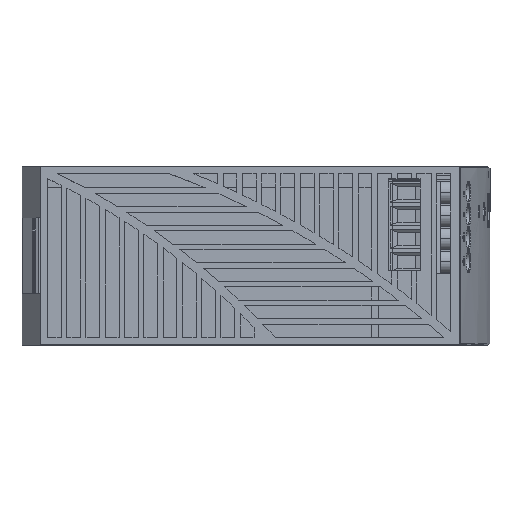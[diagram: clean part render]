
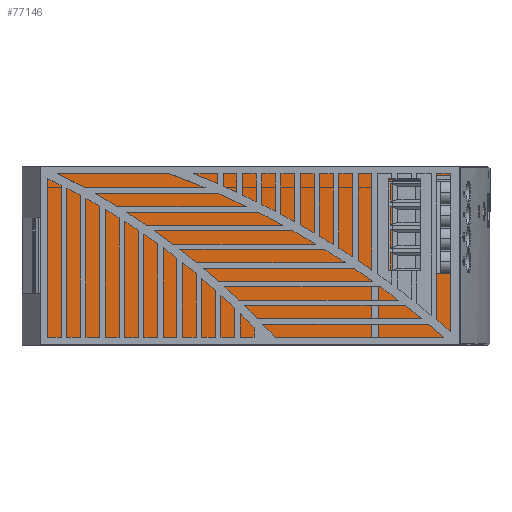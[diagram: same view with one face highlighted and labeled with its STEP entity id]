
A CAD part, top view. The second image highlights one B-rep face of the part: STEP entity #77146.
In plain terms, the highlighted planar face has unit normal (0, 0, 1) as drawn and (0, 1, 0) by its records, which use the part's own axes.
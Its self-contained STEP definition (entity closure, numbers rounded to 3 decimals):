
#779 = VECTOR ( 'NONE', #61953, 1000. ) ;
#1167 = VERTEX_POINT ( 'NONE', #58205 ) ;
#2375 = CARTESIAN_POINT ( 'NONE',  ( 23., 60., 112.379 ) ) ;
#3118 = ORIENTED_EDGE ( 'NONE', *, *, #10994, .F. ) ;
#5104 = DIRECTION ( 'NONE',  ( 0., 0., 1. ) ) ;
#5617 = AXIS2_PLACEMENT_3D ( 'NONE', #7026, #62240, #8580 ) ;
#5988 = VECTOR ( 'NONE', #5104, 1000. ) ;
#7026 = CARTESIAN_POINT ( 'NONE',  ( 23., 60., 0. ) ) ;
#7411 = CARTESIAN_POINT ( 'NONE',  ( -23., 60., 0. ) ) ;
#8580 = DIRECTION ( 'NONE',  ( 0., 0., -1. ) ) ;
#9109 = VERTEX_POINT ( 'NONE', #45475 ) ;
#10994 = EDGE_CURVE ( 'NONE', #19531, #25296, #26738, .T. ) ;
#11001 = CARTESIAN_POINT ( 'NONE',  ( 23., 60., 0. ) ) ;
#11419 = CARTESIAN_POINT ( 'NONE',  ( 22., 60., 95. ) ) ;
#11776 = VECTOR ( 'NONE', #38357, 1000. ) ;
#13565 = EDGE_CURVE ( 'NONE', #31120, #63961, #42698, .T. ) ;
#13671 = CARTESIAN_POINT ( 'NONE',  ( -23., 60., 0. ) ) ;
#14469 = FACE_OUTER_BOUND ( 'NONE', #43638, .T. ) ;
#17281 = LINE ( 'NONE', #11001, #64705 ) ;
#17891 = CARTESIAN_POINT ( 'NONE',  ( -5., 60., 112.379 ) ) ;
#19180 = ORIENTED_EDGE ( 'NONE', *, *, #13565, .T. ) ;
#19316 = CARTESIAN_POINT ( 'NONE',  ( 23., 60., 0. ) ) ;
#19531 = VERTEX_POINT ( 'NONE', #69996 ) ;
#19731 = CARTESIAN_POINT ( 'NONE',  ( -5., 60., 95. ) ) ;
#21119 = EDGE_CURVE ( 'NONE', #49950, #31120, #36963, .T. ) ;
#22621 = EDGE_CURVE ( 'NONE', #1167, #9109, #37307, .T. ) ;
#22989 = EDGE_CURVE ( 'NONE', #49950, #1167, #17281, .T. ) ;
#24251 = EDGE_CURVE ( 'NONE', #61717, #9109, #40419, .T. ) ;
#24510 = CARTESIAN_POINT ( 'NONE',  ( -23., 60., 112.379 ) ) ;
#25045 = VECTOR ( 'NONE', #47526, 1000. ) ;
#25080 = ORIENTED_EDGE ( 'NONE', *, *, #21119, .T. ) ;
#25296 = VERTEX_POINT ( 'NONE', #17891 ) ;
#25834 = DIRECTION ( 'NONE',  ( -1., 0., 0. ) ) ;
#26738 = LINE ( 'NONE', #19731, #66924 ) ;
#27395 = LINE ( 'NONE', #32118, #68926 ) ;
#31120 = VERTEX_POINT ( 'NONE', #13671 ) ;
#31890 = CARTESIAN_POINT ( 'NONE',  ( 23., 60., 0. ) ) ;
#31962 = EDGE_CURVE ( 'NONE', #61717, #19531, #76049, .T. ) ;
#32118 = CARTESIAN_POINT ( 'NONE',  ( 23., 60., 112.379 ) ) ;
#32279 = ORIENTED_EDGE ( 'NONE', *, *, #31962, .F. ) ;
#36745 = EDGE_CURVE ( 'NONE', #25296, #63961, #27395, .T. ) ;
#36963 = LINE ( 'NONE', #19316, #25045 ) ;
#37307 = LINE ( 'NONE', #2375, #779 ) ;
#37586 = PLANE ( 'NONE',  #5617 ) ;
#38357 = DIRECTION ( 'NONE',  ( 0., 0., 1. ) ) ;
#38919 = DIRECTION ( 'NONE',  ( 0., 0., 1. ) ) ;
#40419 = LINE ( 'NONE', #11419, #5988 ) ;
#40766 = DIRECTION ( 'NONE',  ( -1., 0., 0. ) ) ;
#42642 = VECTOR ( 'NONE', #40766, 1000. ) ;
#42698 = LINE ( 'NONE', #7411, #11776 ) ;
#43638 = EDGE_LOOP ( 'NONE', ( #51330, #3118, #32279, #49316, #71932, #68150, #25080, #19180 ) ) ;
#45475 = CARTESIAN_POINT ( 'NONE',  ( 22., 60., 112.379 ) ) ;
#47526 = DIRECTION ( 'NONE',  ( -1., 0., 0. ) ) ;
#49316 = ORIENTED_EDGE ( 'NONE', *, *, #24251, .T. ) ;
#49950 = VERTEX_POINT ( 'NONE', #31890 ) ;
#51330 = ORIENTED_EDGE ( 'NONE', *, *, #36745, .F. ) ;
#56365 = CARTESIAN_POINT ( 'NONE',  ( 22., 60., 95. ) ) ;
#58205 = CARTESIAN_POINT ( 'NONE',  ( 23., 60., 112.379 ) ) ;
#58749 = CARTESIAN_POINT ( 'NONE',  ( -5., 60., 95. ) ) ;
#61717 = VERTEX_POINT ( 'NONE', #56365 ) ;
#61953 = DIRECTION ( 'NONE',  ( -1., 0., 0. ) ) ;
#62240 = DIRECTION ( 'NONE',  ( 0., -1., 0. ) ) ;
#63961 = VERTEX_POINT ( 'NONE', #24510 ) ;
#64705 = VECTOR ( 'NONE', #65850, 1000. ) ;
#65850 = DIRECTION ( 'NONE',  ( 0., 0., 1. ) ) ;
#66924 = VECTOR ( 'NONE', #38919, 1000. ) ;
#68150 = ORIENTED_EDGE ( 'NONE', *, *, #22989, .F. ) ;
#68926 = VECTOR ( 'NONE', #25834, 1000. ) ;
#69996 = CARTESIAN_POINT ( 'NONE',  ( -5., 60., 95. ) ) ;
#71932 = ORIENTED_EDGE ( 'NONE', *, *, #22621, .F. ) ;
#76049 = LINE ( 'NONE', #58749, #42642 ) ;
#77146 = ADVANCED_FACE ( 'NONE', ( #14469 ), #37586, .F. ) ;
